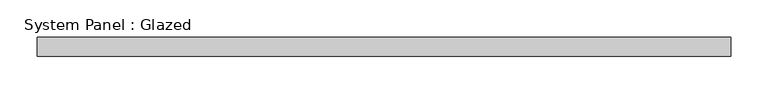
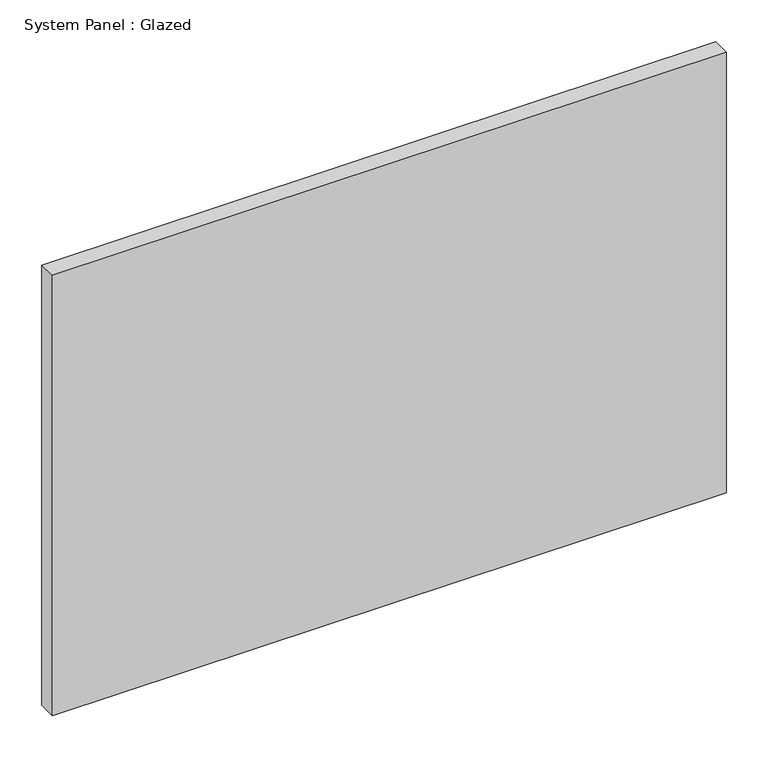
"""IFC4 building model written with IfcOpenShell, lengths in millimetres: plate geometry, System Panel : Glazed."""

from ifc_helpers import new_model, si_unit, origin, origin_with_axes, place, context, project, spatial, polyline, outline, extrude, source, transform, mapped, element, save


def system_panel_glazed_b95992d0(model_context):
    return source(origin(), model_context, "Body", "SweptSolid", [
        extrude(outline(polyline([(462.9773698, 24.5), (-462.9773698, 24.5), (-462.9773698, 49.5), (462.9773698, 49.5), (462.9773698, 24.5)])), origin_with_axes(), (0.0, 0.0, 1.0), 639.6468952),
    ])


if __name__ == "__main__":
    model = new_model("IFC4")
    model_context = context("Model", 3, world=origin())
    ifc_project = project(units=[si_unit("LENGTHUNIT", "METRE", prefix="MILLI")], contexts=[model_context])
    site = spatial("IfcSite", under=ifc_project)
    building = spatial("IfcBuilding", under=site)
    placement = place(None, origin())
    system_panel_glazed_shape = system_panel_glazed_b95992d0(model_context)
    element("IfcPlate", 1, ObjectType="System Panel : Glazed", at=placement, inside=building, context=model_context, shape_type="MappedRepresentation", body=[
        mapped(system_panel_glazed_shape, transform((0.0, 0.0, 0.0), x_axis=(1.0, 0.0, 0.0), y_axis=(0.0, 1.0, 0.0), z_axis=(0.0, 0.0, 1.0))),
    ])
    save(model, "model.ifc")
